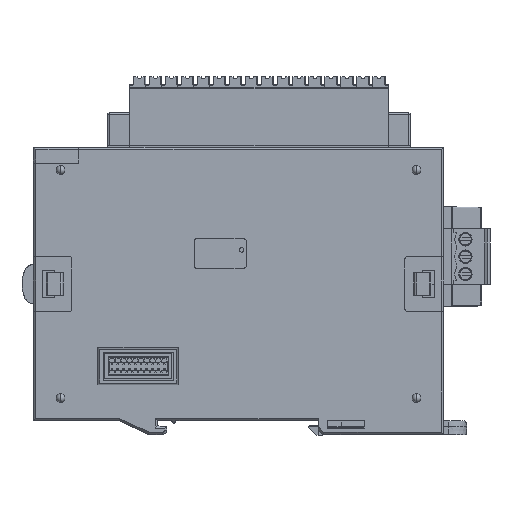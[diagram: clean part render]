
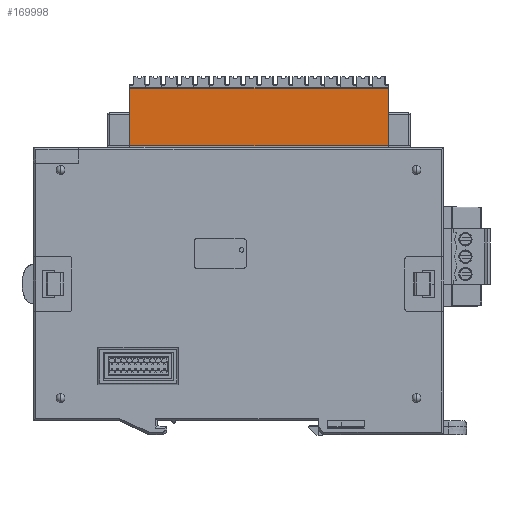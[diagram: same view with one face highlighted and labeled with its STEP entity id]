
A CAD part, left-side view. The second image highlights one B-rep face of the part: STEP entity #169998.
In plain terms, the highlighted planar face has unit normal (-1, 0, 0).
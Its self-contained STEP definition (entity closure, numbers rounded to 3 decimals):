
#4894 = CARTESIAN_POINT ( 'NONE',  ( -6.786, 24.948, 69.8 ) ) ;
#9250 = VERTEX_POINT ( 'NONE', #98883 ) ;
#11717 = DIRECTION ( 'NONE',  ( 0., 0., 1. ) ) ;
#18033 = LINE ( 'NONE', #50767, #45752 ) ;
#20750 = DIRECTION ( 'NONE',  ( -1., 0., 0. ) ) ;
#26970 = CARTESIAN_POINT ( 'NONE',  ( -6.786, 26.873, 63.5 ) ) ;
#29290 = EDGE_CURVE ( 'NONE', #162135, #128238, #42470, .T. ) ;
#37106 = CARTESIAN_POINT ( 'NONE',  ( -6.786, -29.827, 76.1 ) ) ;
#38478 = LINE ( 'NONE', #128732, #66916 ) ;
#41517 = ORIENTED_EDGE ( 'NONE', *, *, #134413, .T. ) ;
#42460 = ORIENTED_EDGE ( 'NONE', *, *, #72144, .F. ) ;
#42470 = LINE ( 'NONE', #165422, #78936 ) ;
#45752 = VECTOR ( 'NONE', #79567, 1000. ) ;
#50538 = DIRECTION ( 'NONE',  ( 0., 0., 1. ) ) ;
#50767 = CARTESIAN_POINT ( 'NONE',  ( -6.786, -22.477, 76.1 ) ) ;
#54061 = CARTESIAN_POINT ( 'NONE',  ( -6.786, -29.827, 63.5 ) ) ;
#66916 = VECTOR ( 'NONE', #113863, 1000. ) ;
#67671 = ORIENTED_EDGE ( 'NONE', *, *, #95578, .T. ) ;
#68833 = EDGE_LOOP ( 'NONE', ( #41517, #97897, #42460, #67671 ) ) ;
#72144 = EDGE_CURVE ( 'NONE', #9250, #162135, #171132, .T. ) ;
#78936 = VECTOR ( 'NONE', #11717, 1000. ) ;
#79567 = DIRECTION ( 'NONE',  ( 0., 1., 0. ) ) ;
#80797 = VECTOR ( 'NONE', #111616, 1000. ) ;
#95578 = EDGE_CURVE ( 'NONE', #9250, #134035, #38478, .T. ) ;
#97897 = ORIENTED_EDGE ( 'NONE', *, *, #29290, .F. ) ;
#98883 = CARTESIAN_POINT ( 'NONE',  ( -6.786, -29.827, 63.5 ) ) ;
#111616 = DIRECTION ( 'NONE',  ( 0., 1., 0. ) ) ;
#113863 = DIRECTION ( 'NONE',  ( 0., 0., 1. ) ) ;
#125919 = PLANE ( 'NONE',  #133724 ) ;
#128238 = VERTEX_POINT ( 'NONE', #144659 ) ;
#128732 = CARTESIAN_POINT ( 'NONE',  ( -6.786, -29.827, 63.5 ) ) ;
#133724 = AXIS2_PLACEMENT_3D ( 'NONE', #4894, #20750, #50538 ) ;
#134035 = VERTEX_POINT ( 'NONE', #37106 ) ;
#134413 = EDGE_CURVE ( 'NONE', #134035, #128238, #18033, .T. ) ;
#139835 = FACE_OUTER_BOUND ( 'NONE', #68833, .T. ) ;
#144659 = CARTESIAN_POINT ( 'NONE',  ( -6.786, 26.873, 76.1 ) ) ;
#162135 = VERTEX_POINT ( 'NONE', #26970 ) ;
#165422 = CARTESIAN_POINT ( 'NONE',  ( -6.786, 26.873, 63.5 ) ) ;
#169998 = ADVANCED_FACE ( 'NONE', ( #139835 ), #125919, .T. ) ;
#171132 = LINE ( 'NONE', #54061, #80797 ) ;
